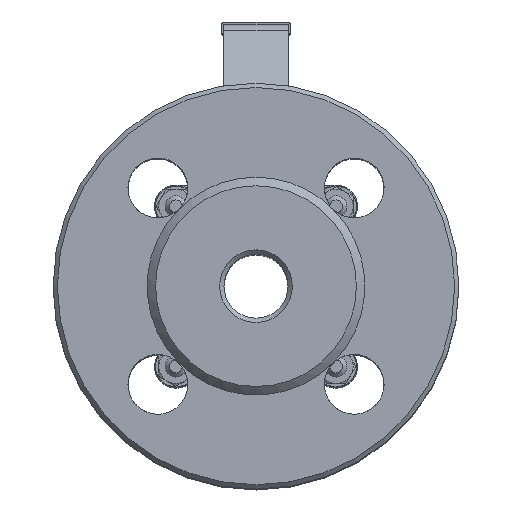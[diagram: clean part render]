
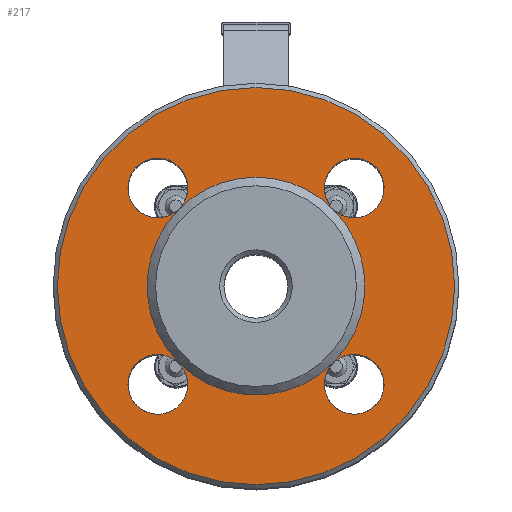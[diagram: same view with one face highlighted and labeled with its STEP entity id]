
A CAD part, top view. The second image highlights one B-rep face of the part: STEP entity #217.
In plain terms, the highlighted planar face has unit normal (0, 0, 1).
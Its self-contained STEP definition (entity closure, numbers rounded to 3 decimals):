
#217=ADVANCED_FACE('',(#6292,#6294,#6296,#6298,#6300,#6302),#6304,.F.);
#6292=FACE_BOUND('',#6293,.T.);
#6293=EDGE_LOOP('',(#18250));
#6294=FACE_BOUND('',#6295,.T.);
#6295=EDGE_LOOP('',(#18251,#18252));
#6296=FACE_BOUND('',#6297,.T.);
#6297=EDGE_LOOP('',(#18253));
#6298=FACE_BOUND('',#6299,.T.);
#6299=EDGE_LOOP('',(#18254,#18255,#18256,#18257));
#6300=FACE_BOUND('',#6301,.T.);
#6301=EDGE_LOOP('',(#18258,#18259));
#6302=FACE_BOUND('',#6303,.T.);
#6303=EDGE_LOOP('',(#18260,#18261));
#6304=PLANE('',#6305);
#6305=AXIS2_PLACEMENT_3D('',#6306,#6307,#6308);
#6306=CARTESIAN_POINT('',(0.,0.,63.));
#6307=DIRECTION('',(0.,0.,-1.));
#6308=DIRECTION('',(-1.,0.,0.));
#18250=ORIENTED_EDGE('',*,*,#27131,.F.);
#18251=ORIENTED_EDGE('',*,*,#27132,.F.);
#18252=ORIENTED_EDGE('',*,*,#27133,.F.);
#18253=ORIENTED_EDGE('',*,*,#27134,.F.);
#18254=ORIENTED_EDGE('',*,*,#27102,.F.);
#18255=ORIENTED_EDGE('',*,*,#27101,.F.);
#18256=ORIENTED_EDGE('',*,*,#27100,.F.);
#18257=ORIENTED_EDGE('',*,*,#27099,.F.);
#18258=ORIENTED_EDGE('',*,*,#27135,.F.);
#18259=ORIENTED_EDGE('',*,*,#27136,.F.);
#18260=ORIENTED_EDGE('',*,*,#27137,.F.);
#18261=ORIENTED_EDGE('',*,*,#27138,.F.);
#27099=EDGE_CURVE('',#30932,#30933,#30934,.T.);
#27100=EDGE_CURVE('',#30933,#30935,#30936,.T.);
#27101=EDGE_CURVE('',#30935,#30937,#30938,.T.);
#27102=EDGE_CURVE('',#30937,#30932,#30939,.T.);
#27131=EDGE_CURVE('',#30996,#30996,#30997,.T.);
#27132=EDGE_CURVE('',#30998,#30935,#30999,.T.);
#27133=EDGE_CURVE('',#30935,#30998,#31000,.T.);
#27134=EDGE_CURVE('',#31001,#31001,#31002,.T.);
#27135=EDGE_CURVE('',#31003,#30932,#31004,.T.);
#27136=EDGE_CURVE('',#30932,#31003,#31005,.T.);
#27137=EDGE_CURVE('',#31006,#30937,#31007,.T.);
#27138=EDGE_CURVE('',#30937,#31006,#31008,.T.);
#30932=VERTEX_POINT('',#37261);
#30933=VERTEX_POINT('',#37262);
#30934=CIRCLE('',#37263,25.5);
#30935=VERTEX_POINT('',#37267);
#30936=CIRCLE('',#37268,25.5);
#30937=VERTEX_POINT('',#37272);
#30938=CIRCLE('',#37273,25.5);
#30939=CIRCLE('',#37277,25.5);
#30996=VERTEX_POINT('',#37413);
#30997=CIRCLE('',#37414,46.5);
#30998=VERTEX_POINT('',#37418);
#30999=CIRCLE('',#37419,7.);
#31000=CIRCLE('',#37423,7.);
#31001=VERTEX_POINT('',#37427);
#31002=CIRCLE('',#37428,7.);
#31003=VERTEX_POINT('',#37432);
#31004=CIRCLE('',#37433,7.);
#31005=CIRCLE('',#37437,7.);
#31006=VERTEX_POINT('',#37441);
#31007=CIRCLE('',#37442,7.);
#31008=CIRCLE('',#37446,7.);
#37261=CARTESIAN_POINT('',(18.031,18.031,63.));
#37262=CARTESIAN_POINT('',(0.,25.5,63.));
#37263=AXIS2_PLACEMENT_3D('',#37264,#37265,#37266);
#37264=CARTESIAN_POINT('',(0.,0.,63.));
#37265=DIRECTION('',(0.,0.,1.));
#37266=DIRECTION('',(0.707,0.707,0.));
#37267=CARTESIAN_POINT('',(-18.031,-18.031,63.));
#37268=AXIS2_PLACEMENT_3D('',#37269,#37270,#37271);
#37269=CARTESIAN_POINT('',(0.,0.,63.));
#37270=DIRECTION('',(0.,0.,1.));
#37271=DIRECTION('',(0.,1.,0.));
#37272=CARTESIAN_POINT('',(18.031,-18.031,63.));
#37273=AXIS2_PLACEMENT_3D('',#37274,#37275,#37276);
#37274=CARTESIAN_POINT('',(0.,0.,63.));
#37275=DIRECTION('',(0.,0.,1.));
#37276=DIRECTION('',(-0.707,-0.707,0.));
#37277=AXIS2_PLACEMENT_3D('',#37278,#37279,#37280);
#37278=CARTESIAN_POINT('',(0.,0.,63.));
#37279=DIRECTION('',(0.,0.,1.));
#37280=DIRECTION('',(0.707,-0.707,0.));
#37413=CARTESIAN_POINT('',(-46.5,0.,63.));
#37414=AXIS2_PLACEMENT_3D('',#37415,#37416,#37417);
#37415=CARTESIAN_POINT('',(0.,0.,63.));
#37416=DIRECTION('',(0.,0.,-1.));
#37417=DIRECTION('',(-1.,0.,0.));
#37418=CARTESIAN_POINT('',(-29.981,-22.981,63.));
#37419=AXIS2_PLACEMENT_3D('',#37420,#37421,#37422);
#37420=CARTESIAN_POINT('',(-22.981,-22.981,63.));
#37421=DIRECTION('',(0.,0.,1.));
#37422=DIRECTION('',(-1.,0.,0.));
#37423=AXIS2_PLACEMENT_3D('',#37424,#37425,#37426);
#37424=CARTESIAN_POINT('',(-22.981,-22.981,63.));
#37425=DIRECTION('',(0.,0.,1.));
#37426=DIRECTION('',(0.707,0.707,0.));
#37427=CARTESIAN_POINT('',(-29.981,22.981,63.));
#37428=AXIS2_PLACEMENT_3D('',#37429,#37430,#37431);
#37429=CARTESIAN_POINT('',(-22.981,22.981,63.));
#37430=DIRECTION('',(0.,0.,1.));
#37431=DIRECTION('',(-1.,0.,0.));
#37432=CARTESIAN_POINT('',(15.981,22.981,63.));
#37433=AXIS2_PLACEMENT_3D('',#37434,#37435,#37436);
#37434=CARTESIAN_POINT('',(22.981,22.981,63.));
#37435=DIRECTION('',(0.,0.,1.));
#37436=DIRECTION('',(-1.,0.,0.));
#37437=AXIS2_PLACEMENT_3D('',#37438,#37439,#37440);
#37438=CARTESIAN_POINT('',(22.981,22.981,63.));
#37439=DIRECTION('',(0.,0.,1.));
#37440=DIRECTION('',(-0.707,-0.707,0.));
#37441=CARTESIAN_POINT('',(15.981,-22.981,63.));
#37442=AXIS2_PLACEMENT_3D('',#37443,#37444,#37445);
#37443=CARTESIAN_POINT('',(22.981,-22.981,63.));
#37444=DIRECTION('',(0.,0.,1.));
#37445=DIRECTION('',(-1.,0.,0.));
#37446=AXIS2_PLACEMENT_3D('',#37447,#37448,#37449);
#37447=CARTESIAN_POINT('',(22.981,-22.981,63.));
#37448=DIRECTION('',(0.,0.,1.));
#37449=DIRECTION('',(-0.707,0.707,0.));
